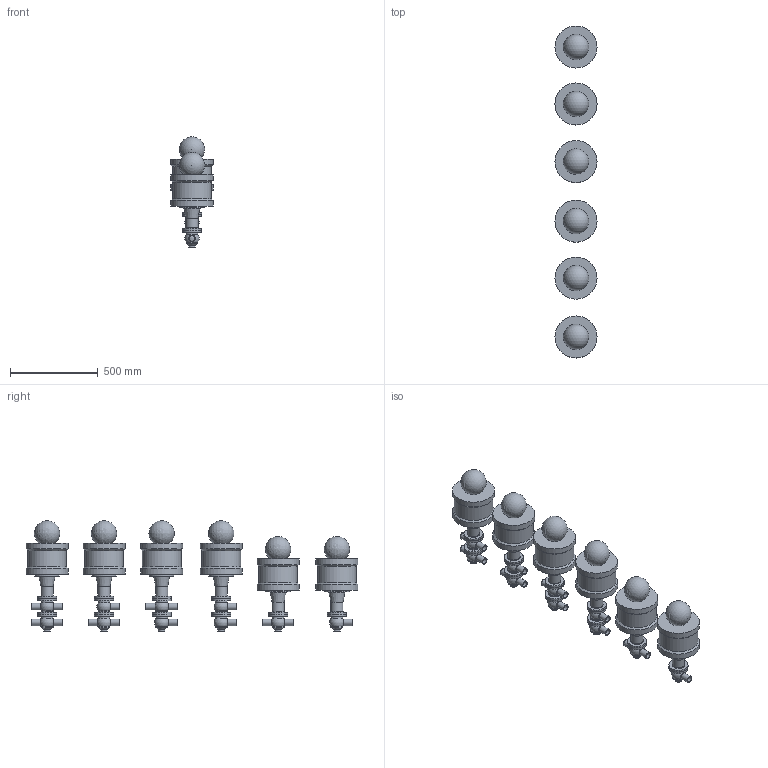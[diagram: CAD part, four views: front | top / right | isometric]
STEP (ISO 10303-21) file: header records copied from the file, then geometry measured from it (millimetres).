
FILE_DESCRIPTION(/* description */ (''),/* implementation_level */ '2;1');
FILE_NAME(/* name */ 'C:\Users\marz-m\Desktop\PDF\BBZQ 3D STEP\BBZQ-DN381-CIL.207.stp',/* time_stamp */ '2018-04-13T14:45:56+02:00',/* author */ ('marz-m'),/* organization */ (''),/* preprocessor_version */ 'ST-DEVELOPER v17',/* originating_system */ 'Autodesk Inventor 2018',/* authorisation */ '');
FILE_SCHEMA (('AUTOMOTIVE_DESIGN { 1 0 10303 214 3 1 1 }'));
Length unit declared in the file: millimetre
Products named in the file (8): BBZQ-CIL.207-DN381; COR-INF-L-BBZQ-DN381X2.5-SALD; COR-INF-T-BBZQ-DN381X2.5-SALD; assemblaggio dn40 per cil 207-360; CILINDRO 207; SAGOMA-GIOTTO-; CORPO-SUP-SUP-BBZQ-L-DN381-SALD; CORPO-SUP-SUP-BBZQ-T-DN381-SALD
Assembly tree (28 placements, depth 2):
  BBZQ-CIL.207-DN381
    COR-INF-L-BBZQ-DN381X2.5-SALD  x3
    COR-INF-T-BBZQ-DN381X2.5-SALD  x3
    assemblaggio dn40 per cil 207-360  x6
    CILINDRO 207  x6
    SAGOMA-GIOTTO-  x6
    CORPO-SUP-SUP-BBZQ-L-DN381-SALD  x2
    CORPO-SUP-SUP-BBZQ-T-DN381-SALD  x2
Bounding box: 240 x 1895.52 x 630.47 mm (x, y, z)
Volume: 62942530.3 mm3; surface area: 2835479.5 mm2
Topology: 28 solids, 28 shells, 326 faces, 759 edges, 560 vertices
Faces by surface type: cylinder 124, plane 115, torus 32, sphere 31, cone 24
Full cylindrical faces by diameter (mm): 25.4 x6, 33.1 x21, 38.1 x21, 68 x20, 69 x6, 69.8 x6, 109 x20, 141 x6, 221 x6, 240 x12
Entity records: 3351 total; most frequent: DIRECTION 659, CARTESIAN_POINT 512, ORIENTED_EDGE 436, AXIS2_PLACEMENT_3D 308, EDGE_CURVE 218, CIRCLE 175, VERTEX_POINT 161, EDGE_LOOP 123
